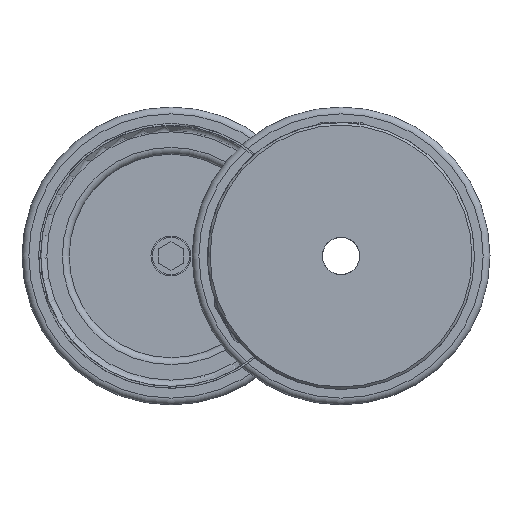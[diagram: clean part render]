
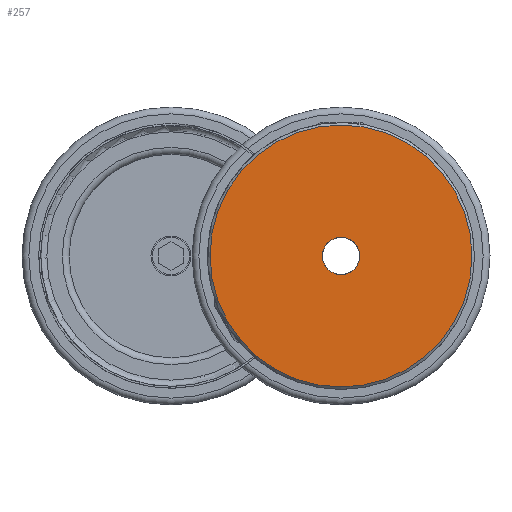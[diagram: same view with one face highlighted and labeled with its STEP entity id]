
A CAD part, left-side view. The second image highlights one B-rep face of the part: STEP entity #257.
In plain terms, the highlighted planar face has unit normal (-1, 0, 0).
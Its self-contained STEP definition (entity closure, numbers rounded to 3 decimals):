
#257 = ADVANCED_FACE( 'NONE', ( #480, #481 ), #482, .F. );
#480 = FACE_OUTER_BOUND( '', #849, .T. );
#481 = FACE_BOUND( '', #850, .T. );
#482 = PLANE( '', #851 );
#849 = EDGE_LOOP( '', ( #1268 ) );
#850 = EDGE_LOOP( '', ( #1269 ) );
#851 = AXIS2_PLACEMENT_3D( '', #1270, #1271, #1272 );
#1268 = ORIENTED_EDGE( '', *, *, #1935, .T. );
#1269 = ORIENTED_EDGE( '', *, *, #1922, .F. );
#1270 = CARTESIAN_POINT( '', ( 0., 1.5, 0. ) );
#1271 = DIRECTION( '', ( 1., 0., 0. ) );
#1272 = DIRECTION( '', ( 0., 1., 0. ) );
#1922 = EDGE_CURVE( 'NONE', #2105, #2105, #2106, .F. );
#1935 = EDGE_CURVE( 'NONE', #2127, #2127, #2128, .F. );
#2105 = VERTEX_POINT( '', #2479 );
#2106 = CIRCLE( '', #2480, 1.5 );
#2127 = VERTEX_POINT( '', #2608 );
#2128 = CIRCLE( '', #2609, 10.55 );
#2479 = CARTESIAN_POINT( '', ( 0., 0., -1.5 ) );
#2480 = AXIS2_PLACEMENT_3D( '', #3085, #3086, #3087 );
#2608 = CARTESIAN_POINT( '', ( 0., 0., -10.55 ) );
#2609 = AXIS2_PLACEMENT_3D( '', #3104, #3105, #3106 );
#3085 = CARTESIAN_POINT( '', ( 0., 0., 0. ) );
#3086 = DIRECTION( '', ( 1., 0., 0. ) );
#3087 = DIRECTION( '', ( 0., 0., -1. ) );
#3104 = CARTESIAN_POINT( '', ( 0., 0., 0. ) );
#3105 = DIRECTION( '', ( 1., 0., 0. ) );
#3106 = DIRECTION( '', ( 0., 0., -1. ) );
